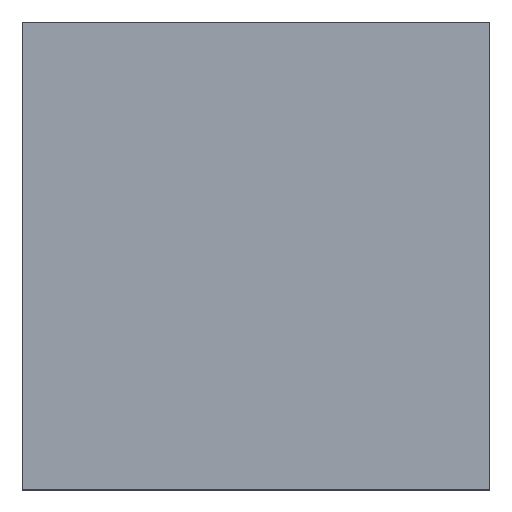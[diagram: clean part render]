
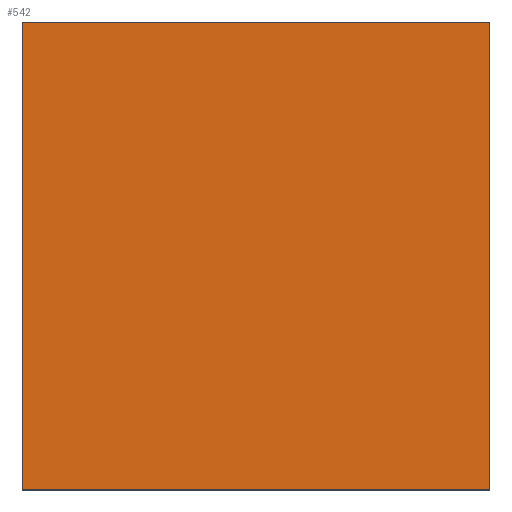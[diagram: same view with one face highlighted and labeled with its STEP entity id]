
A CAD part, top view. The second image highlights one B-rep face of the part: STEP entity #542.
In plain terms, the highlighted planar face has unit normal (0, 0, 1).
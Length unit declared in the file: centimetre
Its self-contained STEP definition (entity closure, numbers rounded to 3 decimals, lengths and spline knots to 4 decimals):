
#11 = VERTEX_POINT ( 'NONE', #637 ) ;
#14 = CARTESIAN_POINT ( 'NONE',  ( 0., 1000., 1000. ) ) ;
#24 = ORIENTED_EDGE ( 'NONE', *, *, #380, .T. ) ;
#54 = DIRECTION ( 'NONE',  ( -1., 0., 0. ) ) ;
#87 = VECTOR ( 'NONE', #54, 100. ) ;
#126 = EDGE_CURVE ( 'NONE', #418, #660, #299, .T. ) ;
#147 = DIRECTION ( 'NONE',  ( 0., -1., 0. ) ) ;
#167 = ORIENTED_EDGE ( 'NONE', *, *, #459, .T. ) ;
#177 = DIRECTION ( 'NONE',  ( 1., 0., 0. ) ) ;
#180 = CARTESIAN_POINT ( 'NONE',  ( 1000., 1000., 1000. ) ) ;
#284 = VECTOR ( 'NONE', #147, 100. ) ;
#299 = LINE ( 'NONE', #619, #318 ) ;
#318 = VECTOR ( 'NONE', #177, 100. ) ;
#336 = ORIENTED_EDGE ( 'NONE', *, *, #485, .T. ) ;
#342 = EDGE_LOOP ( 'NONE', ( #24, #439, #167, #336 ) ) ;
#357 = DIRECTION ( 'NONE',  ( 0., 0., 1. ) ) ;
#374 = CARTESIAN_POINT ( 'NONE',  ( 1000., 0., 1000. ) ) ;
#380 = EDGE_CURVE ( 'NONE', #11, #418, #388, .T. ) ;
#388 = LINE ( 'NONE', #14, #284 ) ;
#418 = VERTEX_POINT ( 'NONE', #718 ) ;
#432 = LINE ( 'NONE', #719, #87 ) ;
#439 = ORIENTED_EDGE ( 'NONE', *, *, #126, .T. ) ;
#451 = VECTOR ( 'NONE', #535, 100. ) ;
#459 = EDGE_CURVE ( 'NONE', #660, #482, #555, .T. ) ;
#482 = VERTEX_POINT ( 'NONE', #180 ) ;
#485 = EDGE_CURVE ( 'NONE', #482, #11, #432, .T. ) ;
#535 = DIRECTION ( 'NONE',  ( 0., 1., 0. ) ) ;
#536 = CARTESIAN_POINT ( 'NONE',  ( 0., 0., 1000. ) ) ;
#541 = PLANE ( 'NONE',  #659 ) ;
#542 = ADVANCED_FACE ( 'NONE', ( #600 ), #541, .T. ) ;
#555 = LINE ( 'NONE', #670, #451 ) ;
#600 = FACE_OUTER_BOUND ( 'NONE', #342, .T. ) ;
#610 = DIRECTION ( 'NONE',  ( 1., 0., 0. ) ) ;
#619 = CARTESIAN_POINT ( 'NONE',  ( 0., 0., 1000. ) ) ;
#637 = CARTESIAN_POINT ( 'NONE',  ( 0., 1000., 1000. ) ) ;
#659 = AXIS2_PLACEMENT_3D ( 'NONE', #536, #357, #610 ) ;
#660 = VERTEX_POINT ( 'NONE', #374 ) ;
#670 = CARTESIAN_POINT ( 'NONE',  ( 1000., 1000., 1000. ) ) ;
#718 = CARTESIAN_POINT ( 'NONE',  ( 0., 0., 1000. ) ) ;
#719 = CARTESIAN_POINT ( 'NONE',  ( 0., 1000., 1000. ) ) ;
